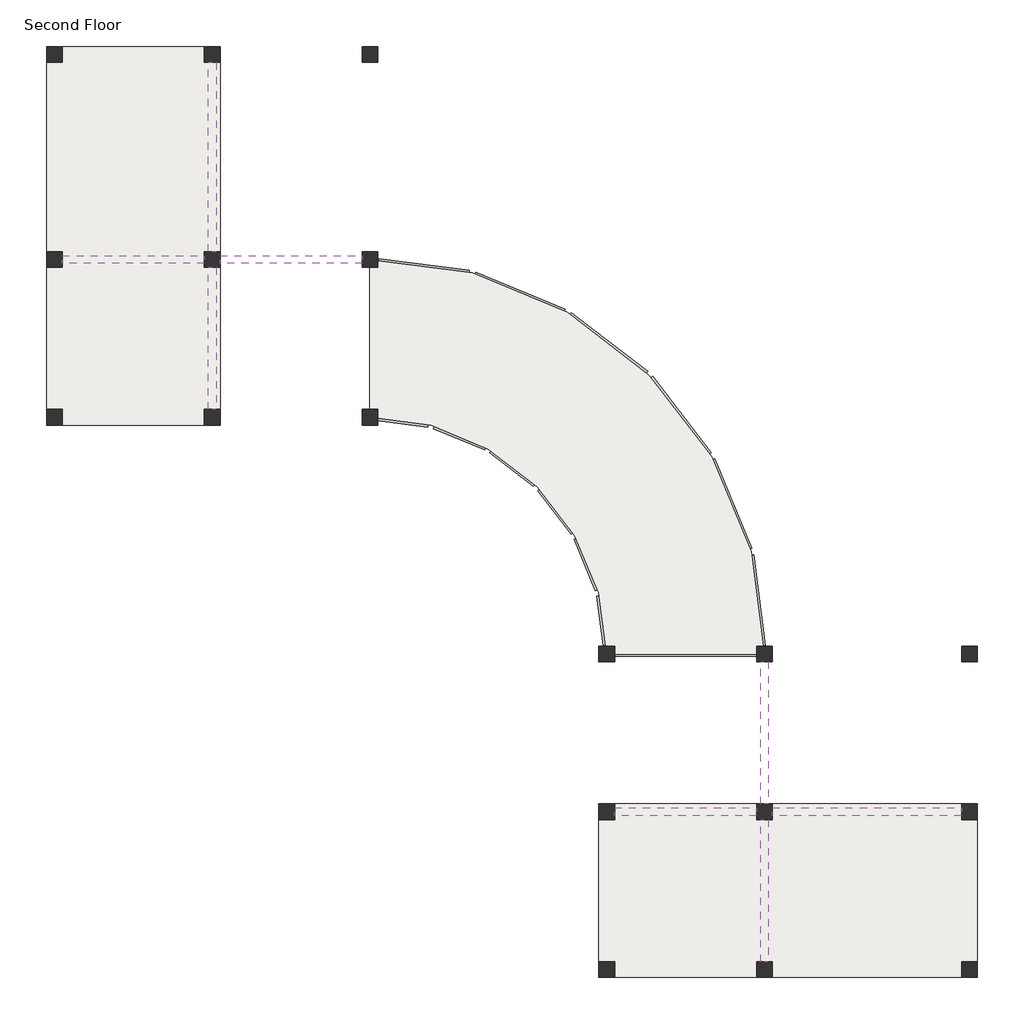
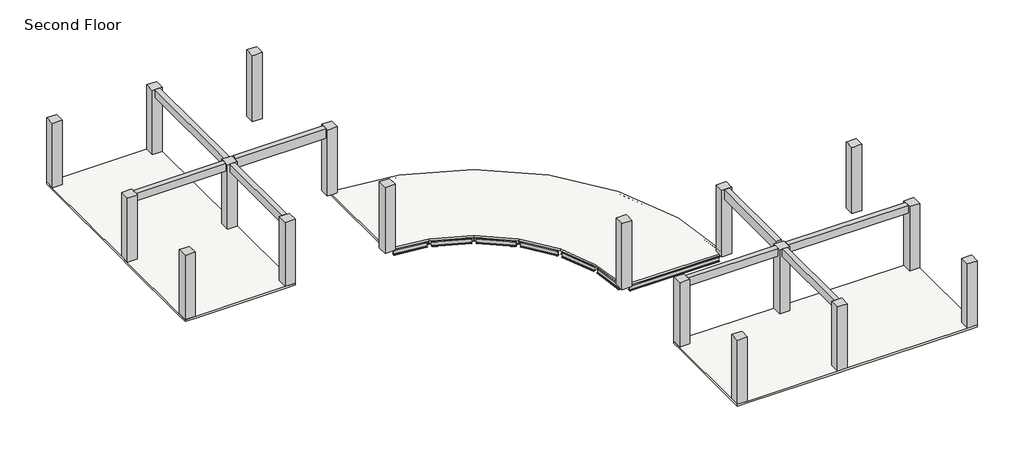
# One storey: 26 beams, 18 columns, 3 slabs.
"""IFC4 building model written with IfcOpenShell, lengths in millimetres."""

from ifc_helpers import new_model, si_unit, frame, origin, place, context, project, spatial, polyline, outline, extrude, faceted_brep, transform, mapped, element, save
from components import w_wide_flange_w12x26_1e533bcd, w_wide_flange_w12x26_3565986b, w_wide_flange_w12x26_dd29c176, w_wide_flange_w12x26_81ca8151, w_wide_flange_w12x26_da9b0925, w_wide_flange_w12x26_462c3e25, w_wide_flange_w12x26_ec7660bb, w_wide_flange_w12x26_07b850c1, w_wide_flange_w12x26_dceb5f91

model = new_model("IFC4")

# Units and contexts
model_context = context("Model", 3, world=origin())
ifc_project = project(units=[si_unit("LENGTHUNIT", "METRE", prefix="MILLI")], contexts=[model_context])

# Site, building, storey
site = spatial("IfcSite", under=ifc_project)
building = spatial("IfcBuilding", under=site)
storey = spatial("IfcBuildingStorey", under=building, Name="Second Floor", Elevation=3048.0)

# Beams
placement = place(None, origin())
element("IfcBeam", 1, ObjectType="Concrete-Rectangular Beam : 12 x 24", at=placement, inside=storey, context=model_context, shape_type="SweptSolid", body=[
    extrude(outline(polyline([(-34903.4783408, 12122.2963551), (-34598.6783408, 12122.2963551), (-34598.6783408, 4807.0963551), (-34903.4783408, 4807.0963551), (-34903.4783408, 12122.2963551)])), frame((0.0, 0.0, 6705.6), z_axis=(0.0, 0.0, 1.0), x_axis=(1.0, 0.0, 0.0)), (0.0, 0.0, 1.0), 488.95),
])
element("IfcBeam", 2, ObjectType="Concrete-Rectangular Beam : 12 x 24", at=placement, inside=storey, context=model_context, shape_type="SweptSolid", body=[
    extrude(outline(polyline([(-34903.4783408, -1288.9036449), (-34903.4783408, 4197.4963551), (-34598.6783408, 4197.4963551), (-34598.6783408, -1288.9036449), (-34903.4783408, -1288.9036449)])), frame((0.0, 0.0, 6705.6), z_axis=(0.0, 0.0, 1.0), x_axis=(1.0, 0.0, 0.0)), (0.0, 0.0, 1.0), 488.95),
])
element("IfcBeam", 3, ObjectType="Concrete-Rectangular Beam : 12 x 24", at=placement, inside=storey, context=model_context, shape_type="SweptSolid", body=[
    extrude(outline(polyline([(-35055.8783408, 4349.8963551), (-40542.2783408, 4349.8963551), (-40542.2783408, 4654.6963551), (-35055.8783408, 4654.6963551), (-35055.8783408, 4349.8963551)])), frame((0.0, 0.0, 6705.6), z_axis=(0.0, 0.0, 1.0), x_axis=(1.0, 0.0, 0.0)), (0.0, 0.0, 1.0), 488.95),
])
element("IfcBeam", 4, ObjectType="Concrete-Rectangular Beam : 12 x 24", at=placement, inside=storey, context=model_context, shape_type="SweptSolid", body=[
    extrude(outline(polyline([(-34446.2783408, 4349.8963551), (-34446.2783408, 4654.6963551), (-28959.8783408, 4654.6963551), (-28959.8783408, 4349.8963551), (-34446.2783408, 4349.8963551)])), frame((0.0, 0.0, 6705.6), z_axis=(0.0, 0.0, 1.0), x_axis=(1.0, 0.0, 0.0)), (0.0, 0.0, 1.0), 609.6),
])
element("IfcBeam", 5, ObjectType="Concrete-Rectangular Beam : 12 x 24", at=placement, inside=storey, context=model_context, shape_type="SweptSolid", body=[
    extrude(outline(polyline([(-5795.0783408, -16681.3036449), (-5795.0783408, -16986.1036449), (-13110.2783408, -16986.1036449), (-13110.2783408, -16681.3036449), (-5795.0783408, -16681.3036449)])), frame((0.0, 0.0, 6705.6), z_axis=(0.0, 0.0, 1.0), x_axis=(1.0, 0.0, 0.0)), (0.0, 0.0, 1.0), 488.95),
])
element("IfcBeam", 6, ObjectType="Concrete-Rectangular Beam : 12 x 24", at=placement, inside=storey, context=model_context, shape_type="SweptSolid", body=[
    extrude(outline(polyline([(-13719.8783408, -16681.3036449), (-13719.8783408, -16986.1036449), (-19206.2783408, -16986.1036449), (-19206.2783408, -16681.3036449), (-13719.8783408, -16681.3036449)])), frame((0.0, 0.0, 6705.6), z_axis=(0.0, 0.0, 1.0), x_axis=(1.0, 0.0, 0.0)), (0.0, 0.0, 1.0), 488.95),
])
element("IfcBeam", 7, ObjectType="Concrete-Rectangular Beam : 12 x 24", at=placement, inside=storey, context=model_context, shape_type="SweptSolid", body=[
    extrude(outline(polyline([(-13567.4783408, -17138.5036449), (-13262.6783408, -17138.5036449), (-13262.6783408, -22624.9036449), (-13567.4783408, -22624.9036449), (-13567.4783408, -17138.5036449)])), frame((0.0, 0.0, 6705.6), z_axis=(0.0, 0.0, 1.0), x_axis=(1.0, 0.0, 0.0)), (0.0, 0.0, 1.0), 488.95),
])
element("IfcBeam", 8, ObjectType="Concrete-Rectangular Beam : 12 x 24", at=placement, inside=storey, context=model_context, shape_type="SweptSolid", body=[
    extrude(outline(polyline([(-13262.6783408, -16528.9036449), (-13567.4783408, -16528.9036449), (-13567.4783408, -11042.5036449), (-13262.6783408, -11042.5036449), (-13262.6783408, -16528.9036449)])), frame((0.0, 0.0, 6705.6), z_axis=(0.0, 0.0, 1.0), x_axis=(1.0, 0.0, 0.0)), (0.0, 0.0, 1.0), 609.6),
])
w_wide_flange_w12x26_shape = w_wide_flange_w12x26_1e533bcd(model_context)
element("IfcBeam", 9, ObjectType="W-Wide Flange : W12X26", at=placement, inside=storey, context=model_context, shape_type="MappedRepresentation", body=[
    mapped(w_wide_flange_w12x26_shape, transform((-26682.8772171, 4242.6511514, 2765.821875), x_axis=(0.991444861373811, -0.13052619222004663, 0.0), y_axis=(0.13052619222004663, 0.991444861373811, 0.0), z_axis=(0.0, 0.0, 1.0))),
])
w_wide_flange_w12x26_2_shape = w_wide_flange_w12x26_3565986b(model_context)
element("IfcBeam", 10, ObjectType="W-Wide Flange : W12X26", at=placement, inside=storey, context=model_context, shape_type="MappedRepresentation", body=[
    mapped(w_wide_flange_w12x26_2_shape, transform((-22872.8772171, 3221.7647282, 2765.821875), x_axis=(0.923879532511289, -0.3826834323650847, 0.0), y_axis=(0.3826834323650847, 0.923879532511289, 0.0), z_axis=(0.0, 0.0, 1.0))),
])
element("IfcBeam", 11, ObjectType="W-Wide Flange : W12X26", at=placement, inside=storey, context=model_context, shape_type="MappedRepresentation", body=[
    mapped(w_wide_flange_w12x26_2_shape, transform((-19456.9246682, 1249.5636046, 2765.821875), x_axis=(0.7933533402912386, -0.6087614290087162, 0.0), y_axis=(0.6087614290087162, 0.7933533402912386, 0.0), z_axis=(0.0, 0.0, 1.0))),
])
element("IfcBeam", 12, ObjectType="W-Wide Flange : W12X26", at=placement, inside=storey, context=model_context, shape_type="MappedRepresentation", body=[
    mapped(w_wide_flange_w12x26_2_shape, transform((-16667.8110913, -1539.5499723, 2765.821875), x_axis=(0.6087614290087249, -0.7933533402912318, 0.0), y_axis=(0.7933533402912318, 0.6087614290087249, 0.0), z_axis=(0.0, 0.0, 1.0))),
])
element("IfcBeam", 13, ObjectType="W-Wide Flange : W12X26", at=placement, inside=storey, context=model_context, shape_type="MappedRepresentation", body=[
    mapped(w_wide_flange_w12x26_2_shape, transform((-14695.6099677, -4955.5025212, 2765.821875), x_axis=(0.3826834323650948, -0.9238795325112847, 0.0), y_axis=(0.9238795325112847, 0.3826834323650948, 0.0), z_axis=(0.0, 0.0, 1.0))),
])
w_wide_flange_w12x26_3_shape = w_wide_flange_w12x26_dd29c176(model_context)
element("IfcBeam", 14, ObjectType="W-Wide Flange : W12X26", at=placement, inside=storey, context=model_context, shape_type="MappedRepresentation", body=[
    mapped(w_wide_flange_w12x26_3_shape, transform((-25185.7576666, -2362.022621, 2765.821875), x_axis=(0.9238795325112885, -0.3826834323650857, 0.0), y_axis=(0.3826834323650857, 0.9238795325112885, 0.0), z_axis=(0.0, 0.0, 1.0))),
])
element("IfcBeam", 15, ObjectType="W-Wide Flange : W12X26", at=placement, inside=storey, context=model_context, shape_type="MappedRepresentation", body=[
    mapped(w_wide_flange_w12x26_3_shape, transform((-23136.1861372, -3545.3432952, 2765.821875), x_axis=(0.793353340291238, -0.6087614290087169, 0.0), y_axis=(0.6087614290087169, 0.793353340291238, 0.0), z_axis=(0.0, 0.0, 1.0))),
])
element("IfcBeam", 16, ObjectType="W-Wide Flange : W12X26", at=placement, inside=storey, context=model_context, shape_type="MappedRepresentation", body=[
    mapped(w_wide_flange_w12x26_3_shape, transform((-21462.7179911, -5218.8114413, 2765.821875), x_axis=(0.6087614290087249, -0.793353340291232, 0.0), y_axis=(0.793353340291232, 0.6087614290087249, 0.0), z_axis=(0.0, 0.0, 1.0))),
])
element("IfcBeam", 17, ObjectType="W-Wide Flange : W12X26", at=placement, inside=storey, context=model_context, shape_type="MappedRepresentation", body=[
    mapped(w_wide_flange_w12x26_3_shape, transform((-20279.3973169, -7268.3829707, 2765.821875), x_axis=(0.3826834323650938, -0.9238795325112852, 0.0), y_axis=(0.9238795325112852, 0.3826834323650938, 0.0), z_axis=(0.0, 0.0, 1.0))),
])
w_wide_flange_w12x26_4_shape = w_wide_flange_w12x26_81ca8151(model_context)
element("IfcBeam", 18, ObjectType="W-Wide Flange : W12X26", at=placement, inside=storey, context=model_context, shape_type="MappedRepresentation", body=[
    mapped(w_wide_flange_w12x26_4_shape, transform((-13674.7235445, -8765.5025212, 2765.821875), x_axis=(0.13052619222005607, -0.9914448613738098, 0.0), y_axis=(0.9914448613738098, 0.13052619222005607, 0.0), z_axis=(0.0, 0.0, 1.0))),
])
w_wide_flange_w12x26_5_shape = w_wide_flange_w12x26_da9b0925(model_context)
element("IfcBeam", 19, ObjectType="W-Wide Flange : W12X26", at=placement, inside=storey, context=model_context, shape_type="MappedRepresentation", body=[
    mapped(w_wide_flange_w12x26_5_shape, transform((-27471.7576666, -1749.4907671, 2765.821875), x_axis=(0.9914448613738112, -0.1305261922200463, 0.0), y_axis=(0.1305261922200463, 0.9914448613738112, 0.0), z_axis=(0.0, 0.0, 1.0))),
])
w_wide_flange_w12x26_6_shape = w_wide_flange_w12x26_462c3e25(model_context)
element("IfcBeam", 20, ObjectType="W-Wide Flange : W12X26", at=placement, inside=storey, context=model_context, shape_type="MappedRepresentation", body=[
    mapped(w_wide_flange_w12x26_6_shape, transform((-19666.865463, -9554.3829707, 2765.821875), x_axis=(0.13052619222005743, -0.9914448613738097, 0.0), y_axis=(0.9914448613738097, 0.13052619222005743, 0.0), z_axis=(0.0, 0.0, 1.0))),
])
w_wide_flange_w12x26_7_shape = w_wide_flange_w12x26_ec7660bb(model_context)
element("IfcBeam", 21, ObjectType="W-Wide Flange : W12X26", at=placement, inside=storey, context=model_context, shape_type="MappedRepresentation", body=[
    mapped(w_wide_flange_w12x26_7_shape, transform((-25483.5645084, 1098.5471145, 2765.821875), x_axis=(-0.25881904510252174, -0.9659258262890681, 0.0), y_axis=(0.9659258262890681, -0.25881904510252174, 0.0), z_axis=(0.0, 0.0, 1.0))),
])
w_wide_flange_w12x26_8_shape = w_wide_flange_w12x26_07b850c1(model_context)
element("IfcBeam", 22, ObjectType="W-Wide Flange : W12X26", at=placement, inside=storey, context=model_context, shape_type="MappedRepresentation", body=[
    mapped(w_wide_flange_w12x26_8_shape, transform((-22559.0783408, -179.121922, 2765.821875), x_axis=(0.5000000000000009, 0.8660254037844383, 0.0), y_axis=(-0.8660254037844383, 0.5000000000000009, 0.0), z_axis=(0.0, 0.0, 1.0))),
])
element("IfcBeam", 23, ObjectType="W-Wide Flange : W12X26", at=placement, inside=storey, context=model_context, shape_type="MappedRepresentation", body=[
    mapped(w_wide_flange_w12x26_8_shape, transform((-20034.0324646, -2116.6577687, 2765.821875), x_axis=(0.7071067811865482, 0.7071067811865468, 0.0), y_axis=(-0.7071067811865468, 0.7071067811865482, 0.0), z_axis=(0.0, 0.0, 1.0))),
])
element("IfcBeam", 24, ObjectType="W-Wide Flange : W12X26", at=placement, inside=storey, context=model_context, shape_type="MappedRepresentation", body=[
    mapped(w_wide_flange_w12x26_8_shape, transform((-18096.4966179, -4641.7036449, 2765.821875), x_axis=(0.866025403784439, 0.4999999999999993, 0.0), y_axis=(-0.4999999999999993, 0.866025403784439, 0.0), z_axis=(0.0, 0.0, 1.0))),
])
element("IfcBeam", 25, ObjectType="W-Wide Flange : W12X26", at=placement, inside=storey, context=model_context, shape_type="MappedRepresentation", body=[
    mapped(w_wide_flange_w12x26_8_shape, transform((-16878.5106667, -7582.181847, 2765.821875), x_axis=(0.9659258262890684, 0.25881904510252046, 0.0), y_axis=(-0.25881904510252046, 0.9659258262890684, 0.0), z_axis=(0.0, 0.0, 1.0))),
])
w_wide_flange_w12x26_9_shape = w_wide_flange_w12x26_dceb5f91(model_context)
element("IfcBeam", 26, ObjectType="W-Wide Flange : W12X26", at=placement, inside=storey, context=model_context, shape_type="MappedRepresentation", body=[
    mapped(w_wide_flange_w12x26_9_shape, transform((-16463.0783408, -10737.7036449, 2765.821875), x_axis=(1.0, 0.0, 0.0), y_axis=(0.0, 1.0, 0.0), z_axis=(0.0, 0.0, 1.0))),
])

# Columns
element("IfcColumn", 27, ObjectType="Concrete-Rectangular-Column : 24 x 24", at=placement, inside=storey, context=model_context, shape_type="Brep", body=[
    faceted_brep([(-35055.8783408, -1898.5036449, 3048.0), (-35055.8783408, -1288.9036449, 3048.0), (-34446.2783408, -1288.9036449, 3048.0), (-34446.2783408, -1898.5036449, 3048.0), (-35055.8783408, -1898.5036449, 7194.55), (-35055.8783408, -1796.9036449, 7194.55), (-35055.8783408, -1390.5036449, 7194.55), (-35055.8783408, -1288.9036449, 7194.55), (-34446.2783408, -1288.9036449, 7194.55), (-34446.2783408, -1898.5036449, 7194.55)], [[[0, 1, 2, 3]], [[1, 0, 4, 5, 6, 7]], [[2, 1, 7, 8]], [[3, 2, 8, 9]], [[0, 3, 9, 4]], [[7, 6, 5, 4, 9, 8]]]),
])
element("IfcColumn", 28, ObjectType="Concrete-Rectangular-Column : 24 x 24", at=placement, inside=storey, context=model_context, shape_type="Brep", body=[
    faceted_brep([(-41151.8783408, -1898.5036449, 3048.0), (-41151.8783408, -1288.9036449, 3048.0), (-40542.2783408, -1288.9036449, 3048.0), (-40542.2783408, -1898.5036449, 3048.0), (-41151.8783408, -1898.5036449, 7194.55), (-41151.8783408, -1288.9036449, 7194.55), (-41050.2783408, -1288.9036449, 7194.55), (-40643.8783408, -1288.9036449, 7194.55), (-40542.2783408, -1288.9036449, 7194.55), (-40542.2783408, -1390.5036449, 7194.55), (-40542.2783408, -1796.9036449, 7194.55), (-40542.2783408, -1898.5036449, 7194.55)], [[[0, 1, 2, 3]], [[1, 0, 4, 5]], [[2, 1, 5, 6, 7, 8]], [[3, 2, 8, 9, 10, 11]], [[0, 3, 11, 4]], [[5, 4, 11, 10, 9, 8, 7, 6]]]),
])
element("IfcColumn", 29, ObjectType="Concrete-Rectangular-Column : 24 x 24", at=placement, inside=storey, context=model_context, shape_type="SweptSolid", body=[
    extrude(outline(polyline([(-35055.8783408, 4197.4963551), (-35055.8783408, 4807.0963551), (-34446.2783408, 4807.0963551), (-34446.2783408, 4197.4963551), (-35055.8783408, 4197.4963551)])), frame((0.0, 0.0, 3048.0), z_axis=(0.0, 0.0, 1.0), x_axis=(1.0, 0.0, 0.0)), (0.0, 0.0, 1.0), 4146.55),
])
element("IfcColumn", 30, ObjectType="Concrete-Rectangular-Column : 24 x 24", at=placement, inside=storey, context=model_context, shape_type="Brep", body=[
    faceted_brep([(-41151.8783408, 4197.4963551, 3048.0), (-41151.8783408, 4807.0963551, 3048.0), (-40542.2783408, 4807.0963551, 3048.0), (-40542.2783408, 4197.4963551, 3048.0), (-41151.8783408, 4197.4963551, 7194.55), (-41151.8783408, 4807.0963551, 7194.55), (-41050.2783408, 4807.0963551, 7194.55), (-40643.8783408, 4807.0963551, 7194.55), (-40542.2783408, 4807.0963551, 7194.55), (-40542.2783408, 4197.4963551, 7194.55), (-40643.8783408, 4197.4963551, 7194.55), (-41050.2783408, 4197.4963551, 7194.55)], [[[0, 1, 2, 3]], [[1, 0, 4, 5]], [[2, 1, 5, 6, 7, 8]], [[3, 2, 8, 9]], [[0, 3, 9, 10, 11, 4]], [[5, 4, 11, 10, 9, 8, 7, 6]]]),
])
element("IfcColumn", 31, ObjectType="Concrete-Rectangular-Column : 24 x 24", at=placement, inside=storey, context=model_context, shape_type="SweptSolid", body=[
    extrude(outline(polyline([(-35055.8783408, 12122.2963551), (-35055.8783408, 12731.8963551), (-34446.2783408, 12731.8963551), (-34446.2783408, 12122.2963551), (-35055.8783408, 12122.2963551)])), frame((0.0, 0.0, 3048.0), z_axis=(0.0, 0.0, 1.0), x_axis=(1.0, 0.0, 0.0)), (0.0, 0.0, 1.0), 4146.55),
])
element("IfcColumn", 32, ObjectType="Concrete-Rectangular-Column : 24 x 24", at=placement, inside=storey, context=model_context, shape_type="Brep", body=[
    faceted_brep([(-41151.8783408, 12122.2963551, 3048.0), (-41151.8783408, 12731.8963551, 3048.0), (-40542.2783408, 12731.8963551, 3048.0), (-40542.2783408, 12122.2963551, 3048.0), (-41151.8783408, 12122.2963551, 7194.55), (-41151.8783408, 12731.8963551, 7194.55), (-40542.2783408, 12731.8963551, 7194.55), (-40542.2783408, 12122.2963551, 7194.55), (-40643.8783408, 12122.2963551, 7194.55), (-41050.2783408, 12122.2963551, 7194.55)], [[[0, 1, 2, 3]], [[1, 0, 4, 5]], [[2, 1, 5, 6]], [[3, 2, 6, 7]], [[0, 3, 7, 8, 9, 4]], [[5, 4, 9, 8, 7, 6]]]),
])
element("IfcColumn", 33, ObjectType="Concrete-Rectangular-Column : 24 x 24", at=placement, inside=storey, context=model_context, shape_type="Brep", body=[
    faceted_brep([(-28959.8783408, 4197.4963551, 3048.0), (-28959.8783408, 4807.0963551, 3048.0), (-28350.2783408, 4807.0963551, 3048.0), (-28350.2783408, 4197.4963551, 3048.0), (-28959.8783408, 4197.4963551, 7315.2), (-28959.8783408, 4807.0963551, 7315.2), (-28858.2783408, 4807.0963551, 7315.2), (-28451.8783408, 4807.0963551, 7315.2), (-28350.2783408, 4807.0963551, 7315.2), (-28350.2783408, 4197.4963551, 7315.2), (-28451.8783408, 4197.4963551, 7315.2), (-28858.2783408, 4197.4963551, 7315.2)], [[[0, 1, 2, 3]], [[4, 5, 1, 0]], [[5, 6, 7, 8, 2, 1]], [[8, 9, 3, 2]], [[9, 10, 11, 4, 0, 3]], [[4, 11, 10, 9, 8, 7, 6, 5]]]),
])
element("IfcColumn", 34, ObjectType="Concrete-Rectangular-Column : 24 x 24", at=placement, inside=storey, context=model_context, shape_type="Brep", body=[
    faceted_brep([(-28959.8783408, -1898.5036449, 3048.0), (-28959.8783408, -1288.9036449, 3048.0), (-28350.2783408, -1288.9036449, 3048.0), (-28350.2783408, -1898.5036449, 3048.0), (-28959.8783408, -1898.5036449, 7315.2), (-28959.8783408, -1796.9036449, 7315.2), (-28959.8783408, -1390.5036449, 7315.2), (-28959.8783408, -1288.9036449, 7315.2), (-28858.2783408, -1288.9036449, 7315.2), (-28451.8783408, -1288.9036449, 7315.2), (-28350.2783408, -1288.9036449, 7315.2), (-28350.2783408, -1898.5036449, 7315.2)], [[[0, 1, 2, 3]], [[4, 5, 6, 7, 1, 0]], [[7, 8, 9, 10, 2, 1]], [[10, 11, 3, 2]], [[11, 4, 0, 3]], [[4, 11, 10, 9, 8, 7, 6, 5]]]),
])
element("IfcColumn", 35, ObjectType="Concrete-Rectangular-Column : 24 x 24", at=placement, inside=storey, context=model_context, shape_type="Brep", body=[
    faceted_brep([(-28959.8783408, 12122.2963551, 3048.0), (-28959.8783408, 12731.8963551, 3048.0), (-28350.2783408, 12731.8963551, 3048.0), (-28350.2783408, 12122.2963551, 3048.0), (-28959.8783408, 12122.2963551, 7315.2), (-28959.8783408, 12223.8963551, 7315.2), (-28959.8783408, 12630.2963551, 7315.2), (-28959.8783408, 12731.8963551, 7315.2), (-28350.2783408, 12731.8963551, 7315.2), (-28350.2783408, 12122.2963551, 7315.2), (-28451.8783408, 12122.2963551, 7315.2), (-28858.2783408, 12122.2963551, 7315.2)], [[[0, 1, 2, 3]], [[4, 5, 6, 7, 1, 0]], [[7, 8, 2, 1]], [[8, 9, 3, 2]], [[9, 10, 11, 4, 0, 3]], [[4, 11, 10, 9, 8, 7, 6, 5]]]),
])
element("IfcColumn", 36, ObjectType="Concrete-Rectangular-Column : 24 x 24", at=placement, inside=storey, context=model_context, shape_type="Brep", body=[
    faceted_brep([(-19206.2783408, -17138.5036449, 3048.0), (-19815.8783408, -17138.5036449, 3048.0), (-19815.8783408, -16528.9036449, 3048.0), (-19206.2783408, -16528.9036449, 3048.0), (-19206.2783408, -17138.5036449, 7194.55), (-19307.8783408, -17138.5036449, 7194.55), (-19714.2783408, -17138.5036449, 7194.55), (-19815.8783408, -17138.5036449, 7194.55), (-19206.2783408, -16528.9036449, 7194.55), (-19815.8783408, -16528.9036449, 7194.55)], [[[0, 1, 2, 3]], [[1, 0, 4, 5, 6, 7]], [[0, 3, 8, 4]], [[3, 2, 9, 8]], [[2, 1, 7, 9]], [[7, 6, 5, 4, 8, 9]]]),
])
element("IfcColumn", 37, ObjectType="Concrete-Rectangular-Column : 24 x 24", at=placement, inside=storey, context=model_context, shape_type="Brep", body=[
    faceted_brep([(-19206.2783408, -23234.5036449, 3048.0), (-19815.8783408, -23234.5036449, 3048.0), (-19815.8783408, -22624.9036449, 3048.0), (-19206.2783408, -22624.9036449, 3048.0), (-19206.2783408, -23234.5036449, 7194.55), (-19815.8783408, -23234.5036449, 7194.55), (-19206.2783408, -22624.9036449, 7194.55), (-19206.2783408, -22726.5036449, 7194.55), (-19206.2783408, -23132.9036449, 7194.55), (-19815.8783408, -22624.9036449, 7194.55), (-19714.2783408, -22624.9036449, 7194.55), (-19307.8783408, -22624.9036449, 7194.55)], [[[0, 1, 2, 3]], [[1, 0, 4, 5]], [[0, 3, 6, 7, 8, 4]], [[3, 2, 9, 10, 11, 6]], [[2, 1, 5, 9]], [[5, 4, 8, 7, 6, 11, 10, 9]]]),
])
element("IfcColumn", 38, ObjectType="Concrete-Rectangular-Column : 24 x 24", at=placement, inside=storey, context=model_context, shape_type="SweptSolid", body=[
    extrude(outline(polyline([(-13110.2783408, -17138.5036449), (-13719.8783408, -17138.5036449), (-13719.8783408, -16528.9036449), (-13110.2783408, -16528.9036449), (-13110.2783408, -17138.5036449)])), frame((0.0, 0.0, 3048.0), z_axis=(0.0, 0.0, 1.0), x_axis=(1.0, 0.0, 0.0)), (0.0, 0.0, 1.0), 4146.55),
])
element("IfcColumn", 39, ObjectType="Concrete-Rectangular-Column : 24 x 24", at=placement, inside=storey, context=model_context, shape_type="Brep", body=[
    faceted_brep([(-13110.2783408, -23234.5036449, 3048.0), (-13719.8783408, -23234.5036449, 3048.0), (-13719.8783408, -22624.9036449, 3048.0), (-13110.2783408, -22624.9036449, 3048.0), (-13110.2783408, -23234.5036449, 7194.55), (-13719.8783408, -23234.5036449, 7194.55), (-13110.2783408, -22624.9036449, 7194.55), (-13110.2783408, -22726.5036449, 7194.55), (-13110.2783408, -23132.9036449, 7194.55), (-13719.8783408, -22624.9036449, 7194.55), (-13719.8783408, -23132.9036449, 7194.55), (-13719.8783408, -22726.5036449, 7194.55)], [[[0, 1, 2, 3]], [[1, 0, 4, 5]], [[0, 3, 6, 7, 8, 4]], [[3, 2, 9, 6]], [[2, 1, 5, 10, 11, 9]], [[5, 4, 8, 7, 6, 9, 11, 10]]]),
])
element("IfcColumn", 40, ObjectType="Concrete-Rectangular-Column : 24 x 24", at=placement, inside=storey, context=model_context, shape_type="SweptSolid", body=[
    extrude(outline(polyline([(-5185.4783408, -17138.5036449), (-5795.0783408, -17138.5036449), (-5795.0783408, -16528.9036449), (-5185.4783408, -16528.9036449), (-5185.4783408, -17138.5036449)])), frame((0.0, 0.0, 3048.0), z_axis=(0.0, 0.0, 1.0), x_axis=(1.0, 0.0, 0.0)), (0.0, 0.0, 1.0), 4146.55),
])
element("IfcColumn", 41, ObjectType="Concrete-Rectangular-Column : 24 x 24", at=placement, inside=storey, context=model_context, shape_type="Brep", body=[
    faceted_brep([(-5185.4783408, -23234.5036449, 3048.0), (-5795.0783408, -23234.5036449, 3048.0), (-5795.0783408, -22624.9036449, 3048.0), (-5185.4783408, -22624.9036449, 3048.0), (-5185.4783408, -23234.5036449, 7194.55), (-5795.0783408, -23234.5036449, 7194.55), (-5185.4783408, -22624.9036449, 7194.55), (-5795.0783408, -22624.9036449, 7194.55), (-5795.0783408, -23132.9036449, 7194.55), (-5795.0783408, -22726.5036449, 7194.55)], [[[0, 1, 2, 3]], [[1, 0, 4, 5]], [[0, 3, 6, 4]], [[3, 2, 7, 6]], [[2, 1, 5, 8, 9, 7]], [[5, 4, 6, 7, 9, 8]]]),
])
element("IfcColumn", 42, ObjectType="Concrete-Rectangular-Column : 24 x 24", at=placement, inside=storey, context=model_context, shape_type="Brep", body=[
    faceted_brep([(-13719.8783408, -11042.5036449, 3048.0), (-13719.8783408, -10432.9036449, 3048.0), (-13110.2783408, -10432.9036449, 3048.0), (-13110.2783408, -11042.5036449, 3048.0), (-13719.8783408, -11042.5036449, 7315.2), (-13110.2783408, -11042.5036449, 7315.2), (-13110.2783408, -10432.9036449, 7315.2), (-13110.2783408, -10534.5036449, 7315.2), (-13110.2783408, -10940.9036449, 7315.2), (-13719.8783408, -10432.9036449, 7315.2), (-13719.8783408, -10940.9036449, 7315.2), (-13719.8783408, -10534.5036449, 7315.2)], [[[0, 1, 2, 3]], [[4, 0, 3, 5]], [[5, 3, 2, 6, 7, 8]], [[6, 2, 1, 9]], [[9, 1, 0, 4, 10, 11]], [[4, 5, 8, 7, 6, 9, 11, 10]]]),
])
element("IfcColumn", 43, ObjectType="Concrete-Rectangular-Column : 24 x 24", at=placement, inside=storey, context=model_context, shape_type="Brep", body=[
    faceted_brep([(-19815.8783408, -11042.5036449, 3048.0), (-19815.8783408, -10432.9036449, 3048.0), (-19206.2783408, -10432.9036449, 3048.0), (-19206.2783408, -11042.5036449, 3048.0), (-19815.8783408, -11042.5036449, 7315.2), (-19206.2783408, -11042.5036449, 7315.2), (-19307.8783408, -11042.5036449, 7315.2), (-19714.2783408, -11042.5036449, 7315.2), (-19206.2783408, -10432.9036449, 7315.2), (-19206.2783408, -10534.5036449, 7315.2), (-19206.2783408, -10940.9036449, 7315.2), (-19815.8783408, -10432.9036449, 7315.2)], [[[0, 1, 2, 3]], [[4, 0, 3, 5, 6, 7]], [[5, 3, 2, 8, 9, 10]], [[8, 2, 1, 11]], [[11, 1, 0, 4]], [[4, 7, 6, 5, 10, 9, 8, 11]]]),
])
element("IfcColumn", 44, ObjectType="Concrete-Rectangular-Column : 24 x 24", at=placement, inside=storey, context=model_context, shape_type="Brep", body=[
    faceted_brep([(-5795.0783408, -11042.5036449, 3048.0), (-5795.0783408, -10432.9036449, 3048.0), (-5185.4783408, -10432.9036449, 3048.0), (-5185.4783408, -11042.5036449, 3048.0), (-5795.0783408, -11042.5036449, 7315.2), (-5185.4783408, -11042.5036449, 7315.2), (-5287.0783408, -11042.5036449, 7315.2), (-5693.4783408, -11042.5036449, 7315.2), (-5185.4783408, -10432.9036449, 7315.2), (-5795.0783408, -10432.9036449, 7315.2), (-5795.0783408, -10940.9036449, 7315.2), (-5795.0783408, -10534.5036449, 7315.2)], [[[0, 1, 2, 3]], [[4, 0, 3, 5, 6, 7]], [[5, 3, 2, 8]], [[8, 2, 1, 9]], [[9, 1, 0, 4, 10, 11]], [[4, 7, 6, 5, 8, 9, 11, 10]]]),
])

# Slabs
element("IfcSlab", 45, ObjectType="3\" LW Concrete on 2\" Metal Deck", at=placement, inside=storey, context=model_context, shape_type="Brep", body=[
    faceted_brep([(-26288.4369924, -1905.2778893, 2921.0), (-28350.2783408, -1633.8313262, 2921.0), (-28655.0783408, -1593.7036449, 2921.0), (-28655.0783408, -1288.9036449, 2921.0), (-28655.0783408, 4197.4963551, 2921.0), (-28655.0783408, 4502.2963551, 2921.0), (-28350.2783408, 4462.1686738, 2921.0), (-24710.6760935, 3983.0059477, 2921.0), (-21035.0783408, 2460.5235088, 2921.0), (-17878.7709955, 38.6037004, 2921.0), (-15456.8511871, -3117.7036449, 2921.0), (-13934.3687482, -6793.3013975, 2921.0), (-13455.2060221, -10432.9036449, 2921.0), (-13415.0783408, -10737.7036449, 2921.0), (-13719.8783408, -10737.7036449, 2921.0), (-19206.2783408, -10737.7036449, 2921.0), (-19511.0783408, -10737.7036449, 2921.0), (-19551.2060221, -10432.9036449, 2921.0), (-19822.6525852, -8371.0622965, 2921.0), (-20736.1420486, -6165.7036449, 2921.0), (-22189.2939336, -4271.9192377, 2921.0), (-24083.0783408, -2818.7673527, 2921.0), (-26288.4369924, -1905.2778893, 3048.0), (-24083.0783408, -2818.7673527, 3048.0), (-22189.2939336, -4271.9192377, 3048.0), (-20736.1420486, -6165.7036449, 3048.0), (-19822.6525852, -8371.0622965, 3048.0), (-19551.2060221, -10432.9036449, 3048.0), (-19511.0783408, -10737.7036449, 3048.0), (-19206.2783408, -10737.7036449, 3048.0), (-13719.8783408, -10737.7036449, 3048.0), (-13415.0783408, -10737.7036449, 3048.0), (-13455.2060221, -10432.9036449, 3048.0), (-13934.3687482, -6793.3013975, 3048.0), (-15456.8511871, -3117.7036449, 3048.0), (-17878.7709955, 38.6037004, 3048.0), (-21035.0783408, 2460.5235088, 3048.0), (-24710.6760935, 3983.0059477, 3048.0), (-28350.2783408, 4462.1686738, 3048.0), (-28655.0783408, 4502.2963551, 3048.0), (-28655.0783408, 4197.4963551, 3048.0), (-28655.0783408, -1288.9036449, 3048.0), (-28655.0783408, -1593.7036449, 3048.0), (-28350.2783408, -1633.8313262, 3048.0)], [[[0, 1, 2, 3, 4, 5, 6, 7, 8, 9, 10, 11, 12, 13, 14, 15, 16, 17, 18, 19, 20, 21]], [[22, 23, 24, 25, 26, 27, 28, 29, 30, 31, 32, 33, 34, 35, 36, 37, 38, 39, 40, 41, 42, 43]], [[2, 1, 0, 22, 43, 42]], [[5, 4, 3, 2, 42, 41, 40, 39]], [[7, 6, 5, 39, 38, 37]], [[8, 7, 37, 36]], [[9, 8, 36, 35]], [[10, 9, 35, 34]], [[11, 10, 34, 33]], [[13, 12, 11, 33, 32, 31]], [[16, 15, 14, 13, 31, 30, 29, 28]], [[18, 17, 16, 28, 27, 26]], [[19, 18, 26, 25]], [[20, 19, 25, 24]], [[21, 20, 24, 23]], [[0, 21, 23, 22]]]),
])
element("IfcSlab", 46, ObjectType="LW Concrete on Metal Deck", at=placement, inside=storey, context=model_context, shape_type="Brep", body=[
    faceted_brep([(-34446.2783408, 12731.8963551, 2927.35), (-34446.2783408, 12122.2963551, 2927.35), (-34446.2783408, 4807.0963551, 2927.35), (-34446.2783408, 4197.4963551, 2927.35), (-34446.2783408, -1288.9036449, 2927.35), (-34446.2783408, -1898.5036449, 2927.35), (-35055.8783408, -1898.5036449, 2927.35), (-40542.2783408, -1898.5036449, 2927.35), (-41151.8783408, -1898.5036449, 2927.35), (-41151.8783408, -1288.9036449, 2927.35), (-41151.8783408, 4197.4963551, 2927.35), (-41151.8783408, 4807.0963551, 2927.35), (-41151.8783408, 12122.2963551, 2927.35), (-41151.8783408, 12731.8963551, 2927.35), (-40542.2783408, 12731.8963551, 2927.35), (-35055.8783408, 12731.8963551, 2927.35), (-34446.2783408, 12731.8963551, 3048.0), (-35055.8783408, 12731.8963551, 3048.0), (-40542.2783408, 12731.8963551, 3048.0), (-41151.8783408, 12731.8963551, 3048.0), (-41151.8783408, 12122.2963551, 3048.0), (-41151.8783408, 4807.0963551, 3048.0), (-41151.8783408, 4197.4963551, 3048.0), (-41151.8783408, -1288.9036449, 3048.0), (-41151.8783408, -1898.5036449, 3048.0), (-40542.2783408, -1898.5036449, 3048.0), (-35055.8783408, -1898.5036449, 3048.0), (-34446.2783408, -1898.5036449, 3048.0), (-34446.2783408, -1796.9036449, 3048.0), (-34446.2783408, -1390.5036449, 3048.0), (-34446.2783408, -1288.9036449, 3048.0), (-34446.2783408, 4197.4963551, 3048.0), (-34446.2783408, 4349.8963551, 3048.0), (-34446.2783408, 4654.6963551, 3048.0), (-34446.2783408, 4807.0963551, 3048.0), (-34446.2783408, 12122.2963551, 3048.0), (-34446.2783408, 12223.8963551, 3048.0), (-34446.2783408, 12630.2963551, 3048.0)], [[[0, 1, 2, 3, 4, 5, 6, 7, 8, 9, 10, 11, 12, 13, 14, 15]], [[16, 17, 18, 19, 20, 21, 22, 23, 24, 25, 26, 27, 28, 29, 30, 31, 32, 33, 34, 35, 36, 37]], [[5, 4, 3, 2, 1, 0, 16, 37, 36, 35, 34, 33, 32, 31, 30, 29, 28, 27]], [[8, 7, 6, 5, 27, 26, 25, 24]], [[13, 12, 11, 10, 9, 8, 24, 23, 22, 21, 20, 19]], [[0, 15, 14, 13, 19, 18, 17, 16]]]),
])
element("IfcSlab", 47, ObjectType="LW Concrete on Metal Deck", at=placement, inside=storey, context=model_context, shape_type="Brep", body=[
    faceted_brep([(-5185.4783408, -16528.9036449, 2927.35), (-5185.4783408, -17138.5036449, 2927.35), (-5185.4783408, -22624.9036449, 2927.35), (-5185.4783408, -23234.5036449, 2927.35), (-5795.0783408, -23234.5036449, 2927.35), (-13110.2783408, -23234.5036449, 2927.35), (-13719.8783408, -23234.5036449, 2927.35), (-19206.2783408, -23234.5036449, 2927.35), (-19815.8783408, -23234.5036449, 2927.35), (-19815.8783408, -22624.9036449, 2927.35), (-19815.8783408, -17138.5036449, 2927.35), (-19815.8783408, -16528.9036449, 2927.35), (-19206.2783408, -16528.9036449, 2927.35), (-13719.8783408, -16528.9036449, 2927.35), (-13110.2783408, -16528.9036449, 2927.35), (-5795.0783408, -16528.9036449, 2927.35), (-5185.4783408, -16528.9036449, 3048.0), (-5287.0783408, -16528.9036449, 3048.0), (-5693.4783408, -16528.9036449, 3048.0), (-5795.0783408, -16528.9036449, 3048.0), (-13110.2783408, -16528.9036449, 3048.0), (-13262.6783408, -16528.9036449, 3048.0), (-13567.4783408, -16528.9036449, 3048.0), (-13719.8783408, -16528.9036449, 3048.0), (-19206.2783408, -16528.9036449, 3048.0), (-19307.8783408, -16528.9036449, 3048.0), (-19714.2783408, -16528.9036449, 3048.0), (-19815.8783408, -16528.9036449, 3048.0), (-19815.8783408, -17138.5036449, 3048.0), (-19815.8783408, -22624.9036449, 3048.0), (-19815.8783408, -23234.5036449, 3048.0), (-19206.2783408, -23234.5036449, 3048.0), (-13719.8783408, -23234.5036449, 3048.0), (-13110.2783408, -23234.5036449, 3048.0), (-5795.0783408, -23234.5036449, 3048.0), (-5185.4783408, -23234.5036449, 3048.0), (-5185.4783408, -22624.9036449, 3048.0), (-5185.4783408, -17138.5036449, 3048.0)], [[[0, 1, 2, 3, 4, 5, 6, 7, 8, 9, 10, 11, 12, 13, 14, 15]], [[16, 17, 18, 19, 20, 21, 22, 23, 24, 25, 26, 27, 28, 29, 30, 31, 32, 33, 34, 35, 36, 37]], [[0, 15, 14, 13, 12, 11, 27, 26, 25, 24, 23, 22, 21, 20, 19, 18, 17, 16]], [[11, 10, 9, 8, 30, 29, 28, 27]], [[8, 7, 6, 5, 4, 3, 35, 34, 33, 32, 31, 30]], [[3, 2, 1, 0, 16, 37, 36, 35]]]),
])

save(model, "model.ifc")
